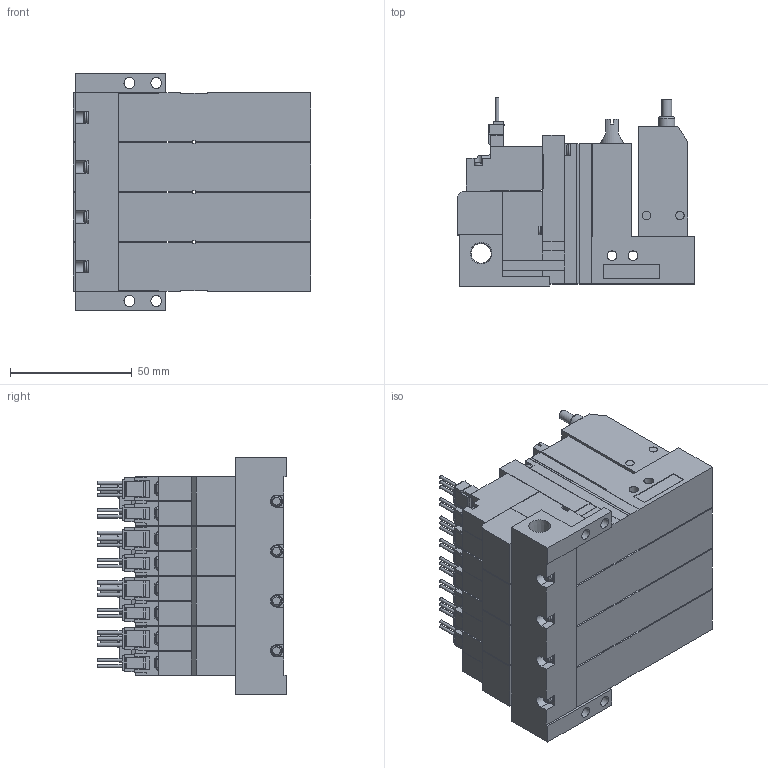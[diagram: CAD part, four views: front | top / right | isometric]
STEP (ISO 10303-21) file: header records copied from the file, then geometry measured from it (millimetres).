
FILE_DESCRIPTION(('STEP AP203'),'1');
FILE_NAME('ABS_ABPLC5WLR404.stp','2025-02-18T23:35:30',(' '),(' '),'Spatial InterOp 3D',' ',' ');
FILE_SCHEMA(('CONFIG_CONTROL_DESIGN'));
Length unit declared in the file: millimetre
Products named in the file (5): BMC22M※※※※ABS_ABPLC5WLR404; Solenoid valve W; Pressure sensor ABSLC; Unit LC; Base MR40R
Assembly tree (13 placements, depth 2):
  BMC22M※※※※ABS_ABPLC5WLR404
    Solenoid valve W  x4
    Pressure sensor ABSLC  x4
    Unit LC  x4
    Base MR40R
Bounding box: 97.6 x 77.45 x 97.5 mm (x, y, z)
Volume: 412112.4 mm3; surface area: 108647.3 mm2
Topology: 13 solids, 13 shells, 1589 faces, 4259 edges, 2800 vertices
Faces by surface type: plane 1350, cylinder 185, cone 30, torus 24
Full cylindrical faces by diameter (mm): 1.4 x20, 2.5 x4, 3 x16, 3.5 x24, 3.6 x4, 4 x12, 4.134 x4, 4.5 x4, 5.2 x4, 6 x4, 6.5 x4, 6.6 x4, 8.279 x1
Entity records: 14268 total; most frequent: CARTESIAN_POINT 2713, DIRECTION 2262, ORIENTED_EDGE 2254, EDGE_CURVE 1127, LINE 928, VECTOR 928, VERTEX_POINT 782, AXIS2_PLACEMENT_3D 667
